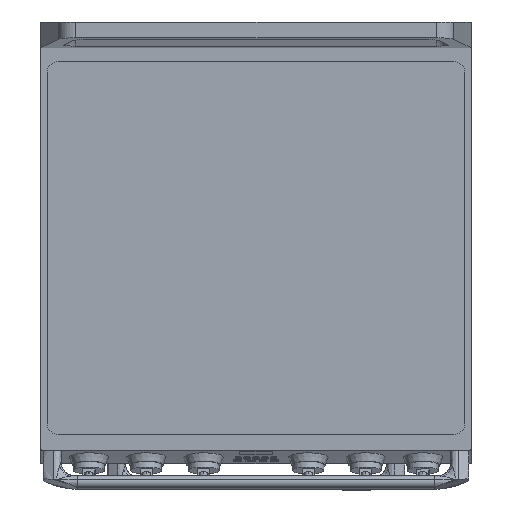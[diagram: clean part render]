
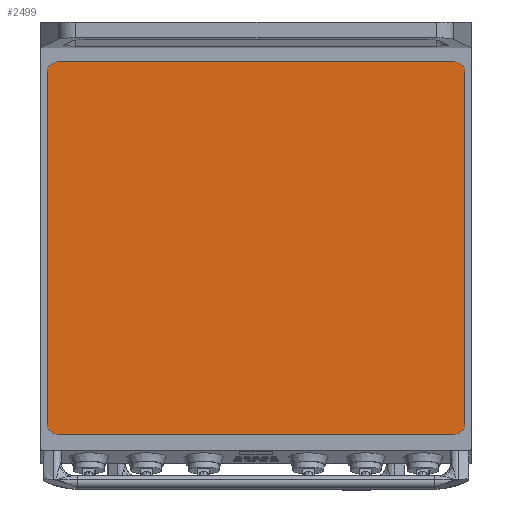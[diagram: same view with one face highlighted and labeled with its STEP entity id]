
A CAD part, top view. The second image highlights one B-rep face of the part: STEP entity #2499.
In plain terms, the highlighted planar face has unit normal (0, 0, 1).
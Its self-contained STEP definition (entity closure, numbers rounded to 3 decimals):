
#1486=CIRCLE('',#13963,15.);
#1488=CIRCLE('',#13967,15.);
#1490=CIRCLE('',#13971,15.);
#1492=CIRCLE('',#13975,15.);
#2499=ADVANCED_FACE('',(#3572),#3021,.F.);
#3021=PLANE('',#13977);
#3572=FACE_OUTER_BOUND('',#4395,.T.);
#4395=EDGE_LOOP('',(#6808,#6809,#6810,#6811,#6812,#6813,#6814,#6815));
#6808=ORIENTED_EDGE('',*,*,#10528,.F.);
#6809=ORIENTED_EDGE('',*,*,#10549,.F.);
#6810=ORIENTED_EDGE('',*,*,#10546,.F.);
#6811=ORIENTED_EDGE('',*,*,#10543,.F.);
#6812=ORIENTED_EDGE('',*,*,#10540,.F.);
#6813=ORIENTED_EDGE('',*,*,#10537,.F.);
#6814=ORIENTED_EDGE('',*,*,#10534,.F.);
#6815=ORIENTED_EDGE('',*,*,#10531,.F.);
#8990=VERTEX_POINT('',#23332);
#8991=VERTEX_POINT('',#23334);
#8993=VERTEX_POINT('',#23340);
#8995=VERTEX_POINT('',#23346);
#8997=VERTEX_POINT('',#23352);
#8999=VERTEX_POINT('',#23358);
#9001=VERTEX_POINT('',#23364);
#9003=VERTEX_POINT('',#23370);
#10528=EDGE_CURVE('',#8990,#8991,#11808,.T.);
#10531=EDGE_CURVE('',#8991,#8993,#1486,.T.);
#10534=EDGE_CURVE('',#8993,#8995,#11812,.T.);
#10537=EDGE_CURVE('',#8995,#8997,#1488,.T.);
#10540=EDGE_CURVE('',#8997,#8999,#11816,.T.);
#10543=EDGE_CURVE('',#8999,#9001,#1490,.T.);
#10546=EDGE_CURVE('',#9001,#9003,#11820,.T.);
#10549=EDGE_CURVE('',#9003,#8990,#1492,.T.);
#11808=LINE('',#23333,#12870);
#11812=LINE('',#23345,#12874);
#11816=LINE('',#23357,#12878);
#11820=LINE('',#23369,#12882);
#12870=VECTOR('',#16295,1.);
#12874=VECTOR('',#16307,1.);
#12878=VECTOR('',#16319,1.);
#12882=VECTOR('',#16331,1.);
#13963=AXIS2_PLACEMENT_3D('',#23339,#16301,#16302);
#13967=AXIS2_PLACEMENT_3D('',#23351,#16313,#16314);
#13971=AXIS2_PLACEMENT_3D('',#23363,#16325,#16326);
#13975=AXIS2_PLACEMENT_3D('',#23374,#16337,#16338);
#13977=AXIS2_PLACEMENT_3D('',#23376,#16341,#16342);
#16295=DIRECTION('',(1.,0.,0.));
#16301=DIRECTION('',(0.,0.,-1.));
#16302=DIRECTION('',(1.,0.,0.));
#16307=DIRECTION('',(0.,-1.,0.));
#16313=DIRECTION('',(0.,0.,-1.));
#16314=DIRECTION('',(1.,0.,0.));
#16319=DIRECTION('',(-1.,0.,0.));
#16325=DIRECTION('',(0.,0.,-1.));
#16326=DIRECTION('',(1.,0.,0.));
#16331=DIRECTION('',(0.,1.,0.));
#16337=DIRECTION('',(0.,0.,-1.));
#16338=DIRECTION('',(1.,0.,0.));
#16341=DIRECTION('',(0.,0.,-1.));
#16342=DIRECTION('',(-1.,0.,0.));
#23332=CARTESIAN_POINT('',(-104.424,668.9,562.817));
#23333=CARTESIAN_POINT('',(-104.424,668.9,562.817));
#23334=CARTESIAN_POINT('',(447.576,668.9,562.817));
#23339=CARTESIAN_POINT('',(447.576,653.9,562.817));
#23340=CARTESIAN_POINT('',(462.576,653.9,562.817));
#23345=CARTESIAN_POINT('',(462.576,653.9,562.817));
#23346=CARTESIAN_POINT('',(462.576,163.9,562.817));
#23351=CARTESIAN_POINT('',(447.576,163.9,562.817));
#23352=CARTESIAN_POINT('',(447.576,148.9,562.817));
#23357=CARTESIAN_POINT('',(447.576,148.9,562.817));
#23358=CARTESIAN_POINT('',(-104.424,148.9,562.817));
#23363=CARTESIAN_POINT('',(-104.424,163.9,562.817));
#23364=CARTESIAN_POINT('',(-119.424,163.9,562.817));
#23369=CARTESIAN_POINT('',(-119.424,163.9,562.817));
#23370=CARTESIAN_POINT('',(-119.424,653.9,562.817));
#23374=CARTESIAN_POINT('',(-104.424,653.9,562.817));
#23376=CARTESIAN_POINT('',(447.576,653.9,562.817));
